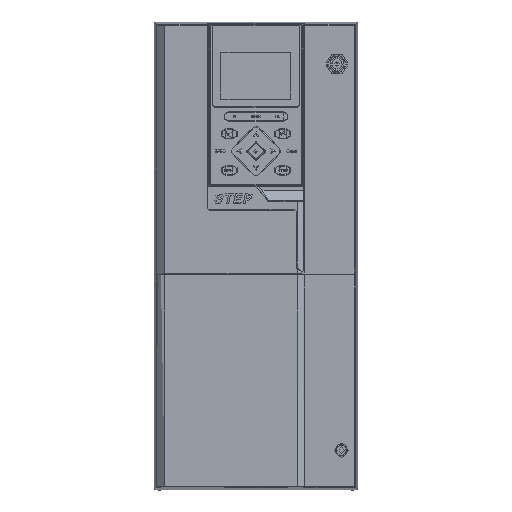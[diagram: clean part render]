
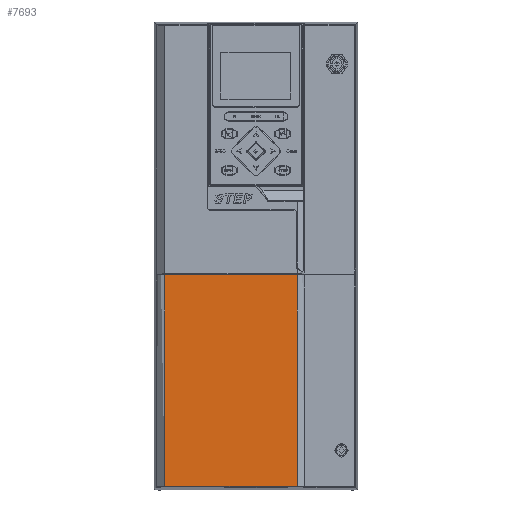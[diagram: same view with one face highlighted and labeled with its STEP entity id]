
A CAD part, top view. The second image highlights one B-rep face of the part: STEP entity #7693.
In plain terms, the highlighted planar face has unit normal (0, 0, 1).
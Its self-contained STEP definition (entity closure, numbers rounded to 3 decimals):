
#7693=ADVANCED_FACE('',(#48079),#48081,.T.);
#48079=FACE_BOUND('',#48080,.T.);
#48080=EDGE_LOOP('',(#86358,#86359,#86360,#86361));
#48081=PLANE('',#48082);
#48082=AXIS2_PLACEMENT_3D('',#48083,#48084,#48085);
#48083=CARTESIAN_POINT('',(-166.009,158.517,130.837));
#48084=DIRECTION('',(0.,0.,1.));
#48085=DIRECTION('',(1.,0.,0.));
#86358=ORIENTED_EDGE('',*,*,#111226,.T.);
#86359=ORIENTED_EDGE('',*,*,#111218,.T.);
#86360=ORIENTED_EDGE('',*,*,#111228,.T.);
#86361=ORIENTED_EDGE('',*,*,#111229,.F.);
#111218=EDGE_CURVE('',#130650,#130645,#130654,.T.);
#111226=EDGE_CURVE('',#130667,#130650,#130668,.T.);
#111228=EDGE_CURVE('',#130645,#130670,#130671,.T.);
#111229=EDGE_CURVE('',#130667,#130670,#130672,.T.);
#130645=VERTEX_POINT('',#170688);
#130650=VERTEX_POINT('',#170734);
#130654=LINE('',#170743,#170744);
#130667=VERTEX_POINT('',#170823);
#130668=LINE('',#170824,#170825);
#130670=VERTEX_POINT('',#170831);
#130671=LINE('',#170832,#170833);
#130672=LINE('',#170835,#170836);
#170688=CARTESIAN_POINT('',(-98.605,-172.666,130.837));
#170734=CARTESIAN_POINT('',(-196.287,-172.666,130.837));
#170743=CARTESIAN_POINT('',(-196.287,-172.666,130.837));
#170744=VECTOR('',#170745,1.);
#170745=DIRECTION('',(1.,0.,0.));
#170823=CARTESIAN_POINT('',(-196.287,-16.868,130.837));
#170824=CARTESIAN_POINT('',(-196.287,-16.868,130.837));
#170825=VECTOR('',#170826,1.);
#170826=DIRECTION('',(0.,-1.,0.));
#170831=CARTESIAN_POINT('',(-98.605,-16.868,130.837));
#170832=CARTESIAN_POINT('',(-98.605,-172.666,130.837));
#170833=VECTOR('',#170834,1.);
#170834=DIRECTION('',(0.,1.,0.));
#170835=CARTESIAN_POINT('',(-196.287,-16.868,130.837));
#170836=VECTOR('',#170837,1.);
#170837=DIRECTION('',(1.,0.,0.));
